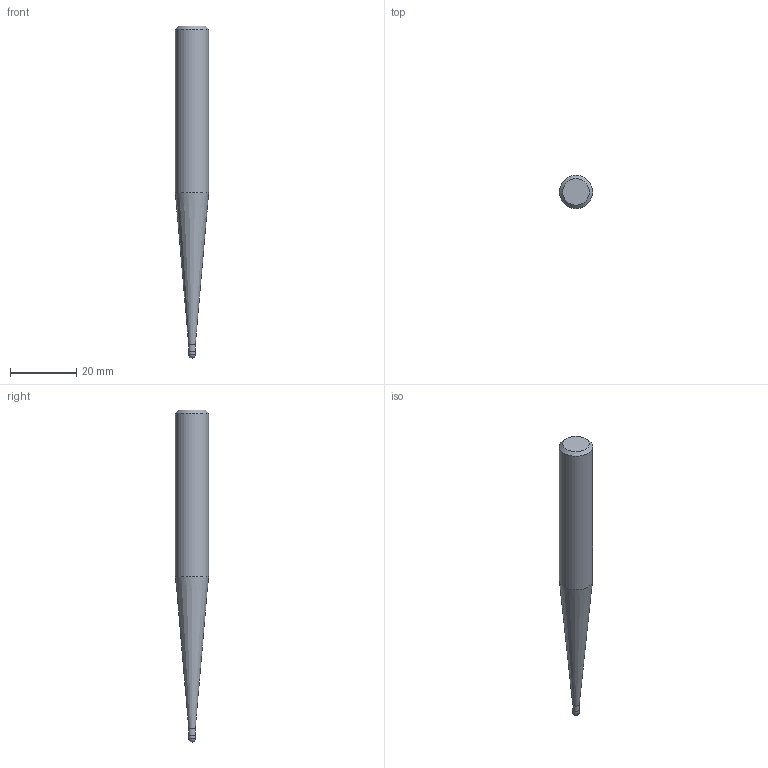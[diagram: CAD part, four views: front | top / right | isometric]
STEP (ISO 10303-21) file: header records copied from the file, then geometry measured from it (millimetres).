
FILE_DESCRIPTION((''),'2;1');
FILE_NAME('C:\Users\nsx150\AppData\Local\Temp\Mastercam 2021\SNAKH10GOD\TEMP.step','2021-10-21T13:33:22',(''),(''),'STEP Write','Mastercam 2021 ... CNC Software, Inc.','');
FILE_SCHEMA(('AUTOMOTIVE_DESIGN'));
Length unit declared in the file: millimetre
Products named in the file (1): None
Bounding box: 10 x 10 x 100 mm (x, y, z)
Volume: 5428.4 mm3; surface area: 2534 mm2
Topology: 2 solids, 2 shells, 9 faces, 14 edges, 8 vertices
Faces by surface type: plane 3, cylinder 3, cone 2, sphere 1
Full cylindrical faces by diameter (mm): 1.985 x1, 2 x1, 10 x1
Entity records: 211 total; most frequent: DIRECTION 36, CARTESIAN_POINT 25, AXIS2_PLACEMENT_3D 18, ORIENTED_EDGE 14, EDGE_LOOP 14, STYLED_ITEM 12, ADVANCED_FACE 9, FACE_BOUND 8
